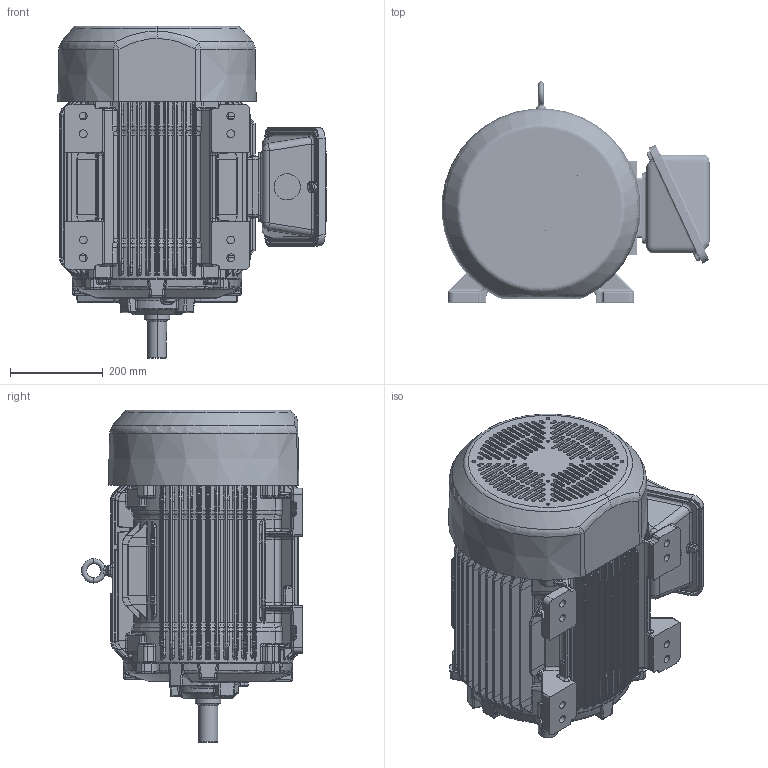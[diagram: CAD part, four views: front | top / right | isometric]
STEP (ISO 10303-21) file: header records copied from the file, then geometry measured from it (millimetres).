
FILE_DESCRIPTION((''),'2;1');
FILE_NAME('320_3D_ASM_ASM','2018-08-15T14:24:10',('EMD2341'),('Nidec Motor Corporation'),'CREO PARAMETRIC BY PTC INC, 2018020','CREO PARAMETRIC BY PTC INC, 2018020','');
FILE_SCHEMA(('CONFIG_CONTROL_DESIGN'));
Length unit declared in the file: inch
Products named in the file (10): 320_FOOTED_FRAME; 320_DE_BRKT; 0133166; 320_CAST_GSK_OBB; 320_OBB_NEMA; 320_CAST_GSK_OBC; 320_CAST_OBC; 320_T; 320_STL_FCVR; 320_3D_ASM_ASM
Assembly tree (9 placements, depth 2):
  320_3D_ASM_ASM
    320_FOOTED_FRAME
    320_DE_BRKT
    0133166
    320_CAST_GSK_OBB
    320_OBB_NEMA
    320_CAST_GSK_OBC
    320_CAST_OBC
    320_T
    320_STL_FCVR
Bounding box: 577.74 x 475.62 x 714.5 mm (x, y, z)
Volume: 78062206.7 mm3; surface area: 2950535.4 mm2
Topology: 9 solids, 11 shells, 4960 faces, 11390 edges, 6567 vertices
Faces by surface type: bspline 1986, cylinder 1072, plane 1071, extrusion 376, torus 314, sphere 90, cone 51
Entity records: 222283 total; most frequent: CARTESIAN_POINT 124154, ORIENTED_EDGE 22764, DIRECTION 16465, EDGE_CURVE 11390, VERTEX_POINT 6567, AXIS2_PLACEMENT_3D 6109, EDGE_LOOP 5102, FACE_OUTER_BOUND 4960
